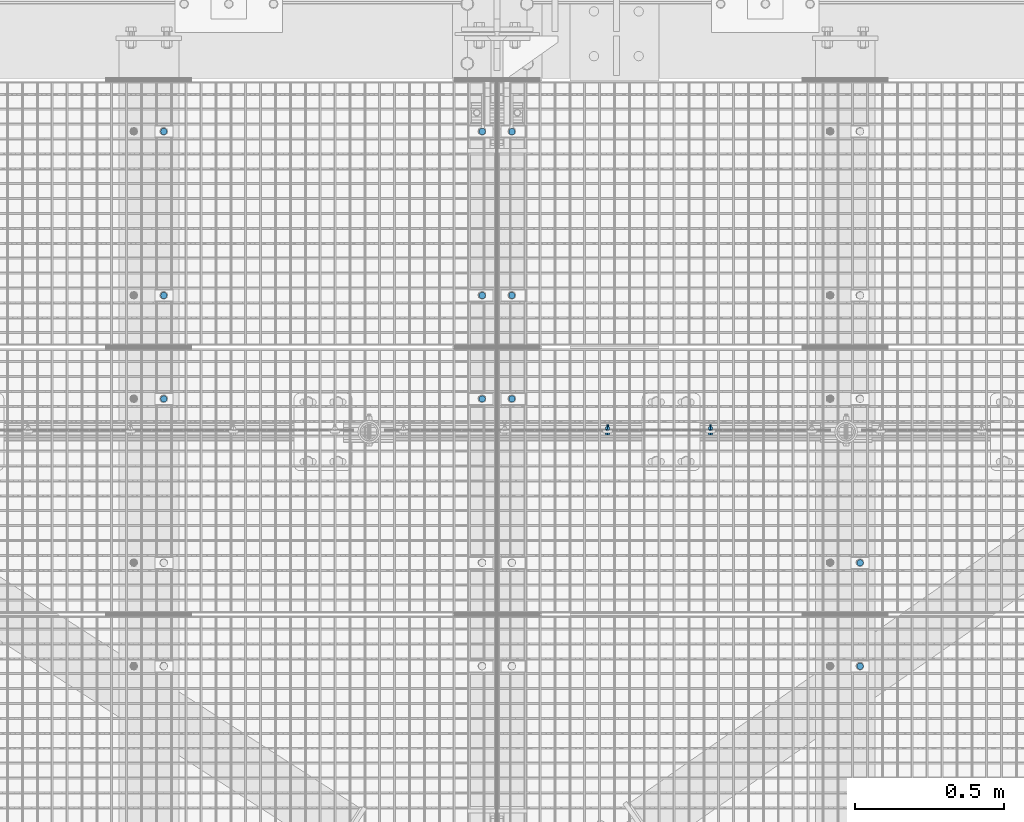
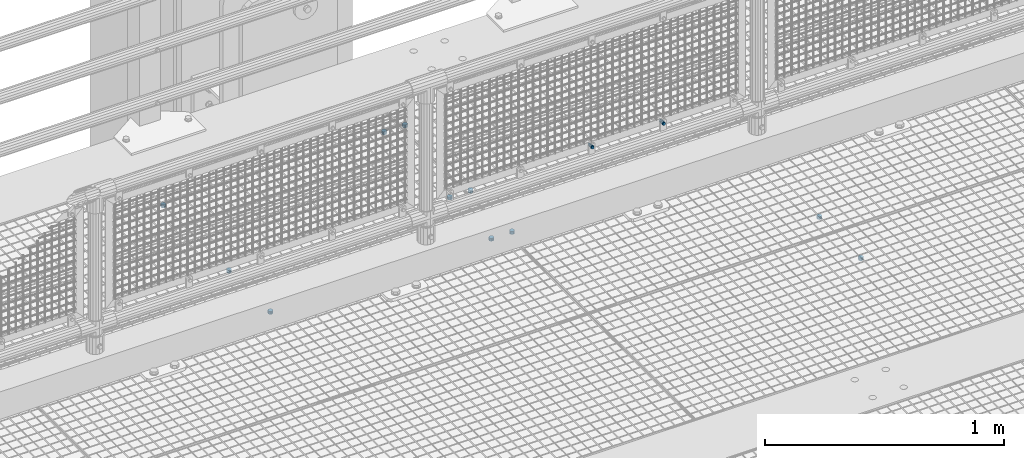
# One storey, part 97 of 1530: 13 mechanical fasteners.
"""IFC2X3 building model written with IfcOpenShell, lengths in millimetres."""

from ifc_helpers import new_model, si_unit, frame, origin_with_axes, place, context, subcontext, project, spatial, faceted_brep, source, transform, mapped, material, type_object, element, save


model = new_model("IFC2X3")

# Units and contexts
model_context = context("Model", 3, precision=1e-05, world=origin_with_axes())
body_context = subcontext(model_context, "Body", "Model", "MODEL_VIEW")
ifc_project = project(units=[si_unit("LENGTHUNIT", "METRE", prefix="MILLI"), si_unit("AREAUNIT", "SQUARE_METRE"), si_unit("VOLUMEUNIT", "CUBIC_METRE"), si_unit("MASSUNIT", "GRAM", prefix="KILO"), si_unit("TIMEUNIT", "SECOND"), si_unit("PLANEANGLEUNIT", "RADIAN"), si_unit("SOLIDANGLEUNIT", "STERADIAN"), si_unit("THERMODYNAMICTEMPERATUREUNIT", "DEGREE_CELSIUS"), si_unit("LUMINOUSINTENSITYUNIT", "LUMEN")], contexts=[model_context])

# Site, building, storey
site_placement = place(None, origin_with_axes())
site = spatial("IfcSite", under=ifc_project, at=site_placement, Name="Brattvåg", CompositionType="ELEMENT")
building_placement = place(site_placement, origin_with_axes())
building = spatial("IfcBuilding", under=site, at=building_placement, Name="Undefined", CompositionType="ELEMENT")
storey_placement = place(building_placement, origin_with_axes())
storey = spatial("IfcBuildingStorey", under=building, at=storey_placement, Name="Undefined", CompositionType="ELEMENT", Elevation=0.0)

# Mechanical fasteners
ifc_material = material(Name="8")
mechanical_fastener_type = type_object("IfcMechanicalFastenerType", Name="Bolt assembly")
shared_shape_1 = source(origin_with_axes(), body_context, "Body", "Brep", [
    faceted_brep([(11.0, -4.99999999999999, 0.0), (9.52627944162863, -4.99999999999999, 5.50000000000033), (5.49999999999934, -4.99999999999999, 9.5262794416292), (-1.13996957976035e-12, -4.99999999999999, 11.0), (-5.50000000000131, -4.99999999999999, 9.52627944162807), (-9.52627944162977, -4.99999999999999, 5.49999999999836), (-11.0, -4.99999999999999, -2.27993915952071e-12), (-9.5262794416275, -4.99999999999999, -5.5000000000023), (-5.49999999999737, -4.99999999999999, -9.52627944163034), (3.40769628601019e-12, -4.99999999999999, -11.0), (5.50000000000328, -4.99999999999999, -9.52627944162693), (9.52627944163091, -4.99999999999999, -5.49999999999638), (9.52627944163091, 10.1, -5.49999999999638), (5.50000000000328, 10.1, -9.52627944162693), (3.40769628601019e-12, 10.1, -11.0), (-5.49999999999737, 10.1, -9.52627944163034), (-9.5262794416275, 10.1, -5.5000000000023), (-11.0, 10.1, -2.27993915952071e-12), (-9.52627944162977, 10.1, 5.49999999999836), (-5.50000000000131, 10.1, 9.52627944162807), (-1.13996957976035e-12, 10.1, 11.0), (5.49999999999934, 10.1, 9.5262794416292), (9.52627944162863, 10.1, 5.50000000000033), (11.0, 10.1, 0.0)], [[[0, 1, 2, 3, 4, 5, 6, 7, 8, 9, 10, 11]], [[12, 13, 14, 15, 16, 17, 18, 19, 20, 21, 22, 23]], [[0, 23, 22, 1]], [[1, 22, 21, 2]], [[2, 21, 20, 3]], [[3, 20, 19, 4]], [[4, 19, 18, 5]], [[5, 18, 17, 6]], [[6, 17, 16, 7]], [[7, 16, 15, 8]], [[8, 15, 14, 9]], [[9, 14, 13, 10]], [[10, 13, 12, 11]], [[11, 12, 23, 0]]]),
])
for number, where, z_axis, x_axis, name in (
    (1, (12300.0047793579, 8121.98931152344, -35.0), (0.0, 1.0, 0.0), (1.0, 0.0, 0.0), "Bolt assembly"),
    (2, (12300.0047793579, 8671.99411010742, -35.0), (0.0, 1.0, 0.0), (1.0, 0.0, 0.0), "Bolt assembly"),
    (3, (12300.0047793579, 7774.99411010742, -35.0), (0.0, 1.0, 0.0), (1.0, 0.0, 0.0), "Bolt assembly"),
    (4, (13468.0119254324, 7224.99, -35.0), (0.0, -1.0, 0.0), (-1.0, 1.99999855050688e-09, 0.0), "Bolt assembly"),
    (5, (13468.0145606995, 6877.99565124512, -35.0), (0.0, -1.0, 0.0), (-1.0, 1.99999855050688e-09, 0.0), "Bolt assembly"),
    (6, (12200.0148773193, 8671.99411010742, -35.0), (0.0, -1.0, 0.0), (-1.0, 1.99999855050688e-09, 0.0), "Bolt assembly"),
    (7, (12200.0148773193, 8121.9904864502, -35.0), (0.0, -1.0, 0.0), (-1.0, 1.99999855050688e-09, 0.0), "Bolt assembly"),
    (8, (11132.0145606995, 8671.99565124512, -35.0), (0.0, -1.0, 0.0), (-1.0, 1.99999855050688e-09, 0.0), "Bolt assembly"),
    (9, (11132.0119254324, 8121.99, -35.0), (0.0, -1.0, 0.0), (-1.0, 1.99999855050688e-09, 0.0), "Bolt assembly"),
    (10, (12200.0148773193, 7774.99411010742, -35.0), (0.0, -1.0, 0.0), (-1.0, 1.99999855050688e-09, 0.0), "Bolt assembly"),
    (11, (11132.0145606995, 7774.99565124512, -35.0), (0.0, -1.0, 0.0), (-1.0, 1.99999855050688e-09, 0.0), "Bolt assembly"),
):
    element("IfcMechanicalFastener", number, at=place(storey_placement, frame(where, z_axis=z_axis, x_axis=x_axis)), inside=storey, type_object=mechanical_fastener_type, material=ifc_material, Name=name, NominalDiameter=20.0, NominalLength=15.0, context=body_context, shape_type="MappedRepresentation", body=[
        mapped(shared_shape_1, transform((0.0, 0.0, 0.0))),
    ])
shared_shape_2 = source(origin_with_axes(), body_context, "Body", "Brep", [
    faceted_brep([(7.50555349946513, -6.899000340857, 0.0), (3.75277674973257, -6.899000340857, 6.5), (-3.75277674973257, -6.899000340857, 6.5), (-7.50555349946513, -6.899000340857, 9.19165206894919e-16), (-3.75277674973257, -6.899000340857, -6.5), (3.75277674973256, -6.899000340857, -6.5), (3.75277674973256, -1.59900015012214, -6.5), (-3.75277674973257, -1.59900015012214, -6.5), (-7.50555349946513, -1.59900015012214, 9.19165206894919e-16), (-3.75277674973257, -1.59900015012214, 6.5), (3.75277674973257, -1.59900015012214, 6.5), (7.50555349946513, -1.59900015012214, 0.0), (4.0, -1.59900015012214, 0.0), (3.46410161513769, -1.59900015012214, 2.00000000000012), (1.99999999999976, -1.59900015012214, 3.46410161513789), (-4.14534392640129e-13, -1.59900015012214, 4.0), (-2.00000000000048, -1.59900015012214, 3.46410161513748), (-3.4641016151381, -1.59900015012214, 1.9999999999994), (-4.0, -1.59900015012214, -8.29068785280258e-13), (-3.46410161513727, -1.59900015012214, -2.00000000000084), (-1.99999999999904, -1.59900015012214, -3.46410161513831), (1.23916228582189e-12, -1.59900015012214, -4.0), (2.00000000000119, -1.59900015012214, -3.46410161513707), (3.46410161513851, -1.59900015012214, -1.99999999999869), (3.46410161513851, 28.4009998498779, -1.99999999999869), (2.00000000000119, 28.4009998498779, -3.46410161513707), (1.23916228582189e-12, 28.4009998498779, -4.0), (-1.99999999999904, 28.4009998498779, -3.46410161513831), (-3.46410161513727, 28.4009998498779, -2.00000000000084), (-4.0, 28.4009998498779, -8.29068785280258e-13), (-3.4641016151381, 28.4009998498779, 1.9999999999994), (-2.00000000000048, 28.4009998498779, 3.46410161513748), (-4.14534392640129e-13, 28.4009998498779, 4.0), (1.99999999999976, 28.4009998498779, 3.46410161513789), (3.46410161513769, 28.4009998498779, 2.00000000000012), (4.0, 28.4009998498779, 0.0), (8.5, -1.59900015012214, 0.0), (7.36121593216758, -1.59900015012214, 4.25000000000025), (4.24999999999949, -1.59900015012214, 7.36121593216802), (-8.80885584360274e-13, -1.59900015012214, 8.5), (-4.25000000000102, -1.59900015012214, 7.36121593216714), (-7.36121593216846, -1.59900015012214, 4.24999999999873), (-8.5, -1.59900015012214, -1.76177116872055e-12), (-7.3612159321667, -1.59900015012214, -4.25000000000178), (-4.24999999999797, -1.59900015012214, -7.3612159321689), (2.63321985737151e-12, -1.59900015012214, -8.5), (4.25000000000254, -1.59900015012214, -7.36121593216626), (7.36121593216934, -1.59900015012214, -4.24999999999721), (7.36121593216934, 0.000999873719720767, -4.24999999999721), (4.25000000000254, 0.000999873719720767, -7.36121593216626), (2.63321985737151e-12, 0.000999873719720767, -8.5), (-4.24999999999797, 0.000999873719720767, -7.3612159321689), (-7.3612159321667, 0.000999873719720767, -4.25000000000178), (-8.5, 0.000999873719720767, -1.76177116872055e-12), (-7.36121593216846, 0.000999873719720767, 4.24999999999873), (-4.25000000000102, 0.000999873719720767, 7.36121593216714), (-8.80885584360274e-13, 0.000999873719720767, 8.5), (4.24999999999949, 0.000999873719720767, 7.36121593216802), (7.36121593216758, 0.000999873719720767, 4.25000000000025), (8.5, 0.000999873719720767, 0.0), (8.5, 11.5035404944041, 0.0), (7.36121593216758, 11.5035404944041, 4.25000000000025), (4.24999999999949, 11.5035404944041, 7.36121593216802), (-8.80885584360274e-13, 11.5035404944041, 8.5), (-4.25000000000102, 11.5035404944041, 7.36121593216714), (-7.36121593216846, 11.5035404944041, 4.24999999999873), (-8.5, 11.5035404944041, -1.76177116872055e-12), (-7.3612159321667, 11.5035404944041, -4.25000000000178), (-4.24999999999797, 11.5035404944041, -7.3612159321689), (2.63321985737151e-12, 11.5035404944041, -8.5), (4.25000000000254, 11.5035404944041, -7.36121593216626), (7.36121593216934, 11.5035404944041, -4.24999999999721), (7.36121593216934, 13.1035405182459, -4.24999999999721), (4.25000000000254, 13.1035405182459, -7.36121593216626), (2.63321985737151e-12, 13.1035405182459, -8.5), (-4.24999999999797, 13.1035405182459, -7.3612159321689), (-7.3612159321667, 13.1035405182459, -4.25000000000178), (-8.5, 13.1035405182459, -1.76177116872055e-12), (-7.36121593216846, 13.1035405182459, 4.24999999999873), (-4.25000000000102, 13.1035405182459, 7.36121593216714), (-8.80885584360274e-13, 13.1035405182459, 8.5), (4.24999999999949, 13.1035405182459, 7.36121593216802), (7.36121593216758, 13.1035405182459, 4.25000000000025), (8.5, 13.1035405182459, 0.0), (7.50555349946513, 13.1035405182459, 0.0), (3.75277674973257, 13.1035405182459, 6.5), (-3.75277674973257, 13.1035405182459, 6.5), (-7.50555349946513, 13.1035405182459, 9.19165206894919e-16), (-3.75277674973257, 13.1035405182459, -6.5), (3.75277674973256, 13.1035405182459, -6.5), (3.75277674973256, 19.9035407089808, -6.5), (-3.75277674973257, 19.9035407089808, -6.5), (-7.50555349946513, 19.9035407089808, 9.19165206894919e-16), (-3.75277674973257, 19.9035407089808, 6.5), (3.75277674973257, 19.9035407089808, 6.5), (7.50555349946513, 19.9035407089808, 0.0)], [[[0, 1, 2, 3, 4, 5]], [[6, 7, 8, 9, 10, 11]], [[0, 11, 10, 1]], [[1, 10, 9, 2]], [[2, 9, 8, 3]], [[3, 8, 7, 4]], [[4, 7, 6, 5]], [[5, 6, 11, 0]], [[12, 13, 14, 15, 16, 17, 18, 19, 20, 21, 22, 23]], [[24, 25, 26, 27, 28, 29, 30, 31, 32, 33, 34, 35]], [[12, 35, 34, 13]], [[13, 34, 33, 14]], [[14, 33, 32, 15]], [[15, 32, 31, 16]], [[16, 31, 30, 17]], [[17, 30, 29, 18]], [[18, 29, 28, 19]], [[19, 28, 27, 20]], [[20, 27, 26, 21]], [[21, 26, 25, 22]], [[22, 25, 24, 23]], [[23, 24, 35, 12]], [[36, 37, 38, 39, 40, 41, 42, 43, 44, 45, 46, 47]], [[48, 49, 50, 51, 52, 53, 54, 55, 56, 57, 58, 59]], [[36, 59, 58, 37]], [[37, 58, 57, 38]], [[38, 57, 56, 39]], [[39, 56, 55, 40]], [[40, 55, 54, 41]], [[41, 54, 53, 42]], [[42, 53, 52, 43]], [[43, 52, 51, 44]], [[44, 51, 50, 45]], [[45, 50, 49, 46]], [[46, 49, 48, 47]], [[47, 48, 59, 36]], [[60, 61, 62, 63, 64, 65, 66, 67, 68, 69, 70, 71]], [[72, 73, 74, 75, 76, 77, 78, 79, 80, 81, 82, 83]], [[60, 83, 82, 61]], [[61, 82, 81, 62]], [[62, 81, 80, 63]], [[63, 80, 79, 64]], [[64, 79, 78, 65]], [[65, 78, 77, 66]], [[66, 77, 76, 67]], [[67, 76, 75, 68]], [[68, 75, 74, 69]], [[69, 74, 73, 70]], [[70, 73, 72, 71]], [[71, 72, 83, 60]], [[84, 85, 86, 87, 88, 89]], [[90, 91, 92, 93, 94, 95]], [[84, 95, 94, 85]], [[85, 94, 93, 86]], [[86, 93, 92, 87]], [[87, 92, 91, 88]], [[88, 91, 90, 89]], [[89, 90, 95, 84]]]),
    faceted_brep([(5.0, 0.100999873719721, 0.0), (4.33012701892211, 0.100999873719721, 2.50000000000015), (2.4999999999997, 0.100999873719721, 4.33012701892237), (-5.18167990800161e-13, 0.100999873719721, 5.0), (-2.5000000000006, 0.100999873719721, 4.33012701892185), (-4.33012701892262, 0.100999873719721, 2.49999999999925), (-5.0, 0.100999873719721, -1.03633598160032e-12), (-4.33012701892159, 0.100999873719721, -2.50000000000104), (-2.49999999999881, 0.100999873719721, -4.33012701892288), (1.54895285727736e-12, 0.100999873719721, -5.0), (2.50000000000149, 0.100999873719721, -4.33012701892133), (4.33012701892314, 0.100999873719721, -2.49999999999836), (4.33012701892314, 8.10099988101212, -2.49999999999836), (2.50000000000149, 8.10099988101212, -4.33012701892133), (1.54895285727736e-12, 8.10099988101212, -5.0), (-2.49999999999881, 8.10099988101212, -4.33012701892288), (-4.33012701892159, 8.10099988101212, -2.50000000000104), (-5.0, 8.10099988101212, -1.03633598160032e-12), (-4.33012701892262, 8.10099988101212, 2.49999999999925), (-2.5000000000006, 8.10099988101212, 4.33012701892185), (-5.18167990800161e-13, 8.10099988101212, 5.0), (2.4999999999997, 8.10099988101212, 4.33012701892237), (4.33012701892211, 8.10099988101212, 2.50000000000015), (5.0, 8.10099988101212, 0.0), (5.0, 8.40354049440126, 0.0), (4.33012701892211, 8.40354049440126, 2.50000000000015), (2.4999999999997, 8.40354049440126, 4.33012701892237), (-5.18167990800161e-13, 8.40354049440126, 5.0), (-2.5000000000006, 8.40354049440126, 4.33012701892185), (-4.33012701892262, 8.40354049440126, 2.49999999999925), (-5.0, 8.40354049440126, -1.03633598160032e-12), (-4.33012701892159, 8.40354049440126, -2.50000000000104), (-2.49999999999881, 8.40354049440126, -4.33012701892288), (1.54895285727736e-12, 8.40354049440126, -5.0), (2.50000000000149, 8.40354049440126, -4.33012701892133), (4.33012701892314, 8.40354049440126, -2.49999999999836), (4.33012701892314, 11.5035404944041, -2.49999999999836), (2.50000000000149, 11.5035404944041, -4.33012701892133), (1.54895285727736e-12, 11.5035404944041, -5.0), (-2.49999999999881, 11.5035404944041, -4.33012701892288), (-4.33012701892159, 11.5035404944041, -2.50000000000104), (-5.0, 11.5035404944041, -1.03633598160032e-12), (-4.33012701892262, 11.5035404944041, 2.49999999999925), (-2.5000000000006, 11.5035404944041, 4.33012701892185), (-5.18167990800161e-13, 11.5035404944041, 5.0), (2.4999999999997, 11.5035404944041, 4.33012701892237), (4.33012701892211, 11.5035404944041, 2.50000000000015), (5.0, 11.5035404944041, 0.0)], [[[0, 1, 2, 3, 4, 5, 6, 7, 8, 9, 10, 11]], [[12, 13, 14, 15, 16, 17, 18, 19, 20, 21, 22, 23]], [[0, 23, 22, 1]], [[1, 22, 21, 2]], [[2, 21, 20, 3]], [[3, 20, 19, 4]], [[4, 19, 18, 5]], [[5, 18, 17, 6]], [[6, 17, 16, 7]], [[7, 16, 15, 8]], [[8, 15, 14, 9]], [[9, 14, 13, 10]], [[10, 13, 12, 11]], [[11, 12, 23, 0]], [[24, 25, 26, 27, 28, 29, 30, 31, 32, 33, 34, 35]], [[36, 37, 38, 39, 40, 41, 42, 43, 44, 45, 46, 47]], [[24, 47, 46, 25]], [[25, 46, 45, 26]], [[26, 45, 44, 27]], [[27, 44, 43, 28]], [[28, 43, 42, 29]], [[29, 42, 41, 30]], [[30, 41, 40, 31]], [[31, 40, 39, 32]], [[32, 39, 38, 33]], [[33, 38, 37, 34]], [[34, 37, 36, 35]], [[35, 36, 47, 24]]]),
])
mechanical_fastener_1_placement = place(storey_placement, frame((12620.8500747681, 7660.49843978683, 352.299672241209), z_axis=(-1.0, 1.99999855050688e-09, 0.0), x_axis=(0.0, 0.0, 1.0)))
element("IfcMechanicalFastener", 12, at=mechanical_fastener_1_placement, inside=storey, type_object=mechanical_fastener_type, material=ifc_material, Name="Bolt assembly", NominalDiameter=8.0, NominalLength=30.0, context=body_context, shape_type="MappedRepresentation", body=[
    mapped(shared_shape_2, transform((0.0, 0.0, 0.0))),
])
shared_shape_3 = source(origin_with_axes(), body_context, "Body", "Brep", [
    faceted_brep([(7.50555349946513, -6.899000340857, 0.0), (3.75277674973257, -6.899000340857, 6.5), (-3.75277674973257, -6.899000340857, 6.5), (-7.50555349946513, -6.899000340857, 9.19165206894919e-16), (-3.75277674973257, -6.899000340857, -6.5), (3.75277674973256, -6.899000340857, -6.5), (3.75277674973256, -1.59900015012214, -6.5), (-3.75277674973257, -1.59900015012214, -6.5), (-7.50555349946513, -1.59900015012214, 9.19165206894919e-16), (-3.75277674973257, -1.59900015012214, 6.5), (3.75277674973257, -1.59900015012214, 6.5), (7.50555349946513, -1.59900015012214, 0.0), (4.0, -1.59900015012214, 0.0), (3.46410161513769, -1.59900015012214, 2.00000000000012), (1.99999999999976, -1.59900015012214, 3.46410161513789), (-4.14534392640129e-13, -1.59900015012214, 4.0), (-2.00000000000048, -1.59900015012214, 3.46410161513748), (-3.4641016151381, -1.59900015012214, 1.9999999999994), (-4.0, -1.59900015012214, -8.29068785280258e-13), (-3.46410161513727, -1.59900015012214, -2.00000000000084), (-1.99999999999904, -1.59900015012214, -3.46410161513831), (1.23916228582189e-12, -1.59900015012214, -4.0), (2.00000000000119, -1.59900015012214, -3.46410161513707), (3.46410161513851, -1.59900015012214, -1.99999999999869), (3.46410161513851, 28.4009998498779, -1.99999999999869), (2.00000000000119, 28.4009998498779, -3.46410161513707), (1.23916228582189e-12, 28.4009998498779, -4.0), (-1.99999999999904, 28.4009998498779, -3.46410161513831), (-3.46410161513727, 28.4009998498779, -2.00000000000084), (-4.0, 28.4009998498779, -8.29068785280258e-13), (-3.4641016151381, 28.4009998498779, 1.9999999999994), (-2.00000000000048, 28.4009998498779, 3.46410161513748), (-4.14534392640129e-13, 28.4009998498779, 4.0), (1.99999999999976, 28.4009998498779, 3.46410161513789), (3.46410161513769, 28.4009998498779, 2.00000000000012), (4.0, 28.4009998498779, 0.0), (8.5, -1.59900015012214, 0.0), (7.36121593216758, -1.59900015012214, 4.25000000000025), (4.24999999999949, -1.59900015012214, 7.36121593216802), (-8.80885584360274e-13, -1.59900015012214, 8.5), (-4.25000000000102, -1.59900015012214, 7.36121593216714), (-7.36121593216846, -1.59900015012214, 4.24999999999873), (-8.5, -1.59900015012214, -1.76177116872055e-12), (-7.3612159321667, -1.59900015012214, -4.25000000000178), (-4.24999999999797, -1.59900015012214, -7.3612159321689), (2.63321985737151e-12, -1.59900015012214, -8.5), (4.25000000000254, -1.59900015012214, -7.36121593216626), (7.36121593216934, -1.59900015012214, -4.24999999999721), (7.36121593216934, 0.000999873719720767, -4.24999999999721), (4.25000000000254, 0.000999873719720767, -7.36121593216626), (2.63321985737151e-12, 0.000999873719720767, -8.5), (-4.24999999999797, 0.000999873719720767, -7.3612159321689), (-7.3612159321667, 0.000999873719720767, -4.25000000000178), (-8.5, 0.000999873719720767, -1.76177116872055e-12), (-7.36121593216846, 0.000999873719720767, 4.24999999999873), (-4.25000000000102, 0.000999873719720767, 7.36121593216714), (-8.80885584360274e-13, 0.000999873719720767, 8.5), (4.24999999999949, 0.000999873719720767, 7.36121593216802), (7.36121593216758, 0.000999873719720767, 4.25000000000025), (8.5, 0.000999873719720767, 0.0), (8.5, 11.5030995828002, 0.0), (7.36121593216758, 11.5030995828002, 4.25000000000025), (4.24999999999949, 11.5030995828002, 7.36121593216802), (-8.80885584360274e-13, 11.5030995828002, 8.5), (-4.25000000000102, 11.5030995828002, 7.36121593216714), (-7.36121593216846, 11.5030995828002, 4.24999999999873), (-8.5, 11.5030995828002, -1.76177116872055e-12), (-7.3612159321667, 11.5030995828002, -4.25000000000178), (-4.24999999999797, 11.5030995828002, -7.3612159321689), (2.63321985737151e-12, 11.5030995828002, -8.5), (4.25000000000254, 11.5030995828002, -7.36121593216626), (7.36121593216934, 11.5030995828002, -4.24999999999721), (7.36121593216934, 13.1030996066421, -4.24999999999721), (4.25000000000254, 13.1030996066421, -7.36121593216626), (2.63321985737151e-12, 13.1030996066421, -8.5), (-4.24999999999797, 13.1030996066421, -7.3612159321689), (-7.3612159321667, 13.1030996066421, -4.25000000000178), (-8.5, 13.1030996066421, -1.76177116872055e-12), (-7.36121593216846, 13.1030996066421, 4.24999999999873), (-4.25000000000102, 13.1030996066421, 7.36121593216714), (-8.80885584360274e-13, 13.1030996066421, 8.5), (4.24999999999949, 13.1030996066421, 7.36121593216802), (7.36121593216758, 13.1030996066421, 4.25000000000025), (8.5, 13.1030996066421, 0.0), (7.50555349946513, 13.1030996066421, 0.0), (3.75277674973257, 13.1030996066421, 6.5), (-3.75277674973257, 13.1030996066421, 6.5), (-7.50555349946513, 13.1030996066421, 9.19165206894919e-16), (-3.75277674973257, 13.1030996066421, -6.5), (3.75277674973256, 13.1030996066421, -6.5), (3.75277674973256, 19.9030997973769, -6.5), (-3.75277674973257, 19.9030997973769, -6.5), (-7.50555349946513, 19.9030997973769, 9.19165206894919e-16), (-3.75277674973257, 19.9030997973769, 6.5), (3.75277674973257, 19.9030997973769, 6.5), (7.50555349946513, 19.9030997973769, 0.0)], [[[0, 1, 2, 3, 4, 5]], [[6, 7, 8, 9, 10, 11]], [[0, 11, 10, 1]], [[1, 10, 9, 2]], [[2, 9, 8, 3]], [[3, 8, 7, 4]], [[4, 7, 6, 5]], [[5, 6, 11, 0]], [[12, 13, 14, 15, 16, 17, 18, 19, 20, 21, 22, 23]], [[24, 25, 26, 27, 28, 29, 30, 31, 32, 33, 34, 35]], [[12, 35, 34, 13]], [[13, 34, 33, 14]], [[14, 33, 32, 15]], [[15, 32, 31, 16]], [[16, 31, 30, 17]], [[17, 30, 29, 18]], [[18, 29, 28, 19]], [[19, 28, 27, 20]], [[20, 27, 26, 21]], [[21, 26, 25, 22]], [[22, 25, 24, 23]], [[23, 24, 35, 12]], [[36, 37, 38, 39, 40, 41, 42, 43, 44, 45, 46, 47]], [[48, 49, 50, 51, 52, 53, 54, 55, 56, 57, 58, 59]], [[36, 59, 58, 37]], [[37, 58, 57, 38]], [[38, 57, 56, 39]], [[39, 56, 55, 40]], [[40, 55, 54, 41]], [[41, 54, 53, 42]], [[42, 53, 52, 43]], [[43, 52, 51, 44]], [[44, 51, 50, 45]], [[45, 50, 49, 46]], [[46, 49, 48, 47]], [[47, 48, 59, 36]], [[60, 61, 62, 63, 64, 65, 66, 67, 68, 69, 70, 71]], [[72, 73, 74, 75, 76, 77, 78, 79, 80, 81, 82, 83]], [[60, 83, 82, 61]], [[61, 82, 81, 62]], [[62, 81, 80, 63]], [[63, 80, 79, 64]], [[64, 79, 78, 65]], [[65, 78, 77, 66]], [[66, 77, 76, 67]], [[67, 76, 75, 68]], [[68, 75, 74, 69]], [[69, 74, 73, 70]], [[70, 73, 72, 71]], [[71, 72, 83, 60]], [[84, 85, 86, 87, 88, 89]], [[90, 91, 92, 93, 94, 95]], [[84, 95, 94, 85]], [[85, 94, 93, 86]], [[86, 93, 92, 87]], [[87, 92, 91, 88]], [[88, 91, 90, 89]], [[89, 90, 95, 84]]]),
    faceted_brep([(5.0, 0.100999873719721, 0.0), (4.33012701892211, 0.100999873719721, 2.50000000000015), (2.4999999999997, 0.100999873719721, 4.33012701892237), (-5.18167990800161e-13, 0.100999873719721, 5.0), (-2.5000000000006, 0.100999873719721, 4.33012701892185), (-4.33012701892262, 0.100999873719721, 2.49999999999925), (-5.0, 0.100999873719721, -1.03633598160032e-12), (-4.33012701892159, 0.100999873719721, -2.50000000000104), (-2.49999999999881, 0.100999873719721, -4.33012701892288), (1.54895285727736e-12, 0.100999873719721, -5.0), (2.50000000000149, 0.100999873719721, -4.33012701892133), (4.33012701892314, 0.100999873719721, -2.49999999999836), (4.33012701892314, 8.10099988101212, -2.49999999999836), (2.50000000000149, 8.10099988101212, -4.33012701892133), (1.54895285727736e-12, 8.10099988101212, -5.0), (-2.49999999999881, 8.10099988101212, -4.33012701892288), (-4.33012701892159, 8.10099988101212, -2.50000000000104), (-5.0, 8.10099988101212, -1.03633598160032e-12), (-4.33012701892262, 8.10099988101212, 2.49999999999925), (-2.5000000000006, 8.10099988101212, 4.33012701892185), (-5.18167990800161e-13, 8.10099988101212, 5.0), (2.4999999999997, 8.10099988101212, 4.33012701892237), (4.33012701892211, 8.10099988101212, 2.50000000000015), (5.0, 8.10099988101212, 0.0), (5.0, 8.40309958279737, 0.0), (4.33012701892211, 8.40309958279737, 2.50000000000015), (2.4999999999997, 8.40309958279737, 4.33012701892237), (-5.18167990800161e-13, 8.40309958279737, 5.0), (-2.5000000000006, 8.40309958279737, 4.33012701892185), (-4.33012701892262, 8.40309958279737, 2.49999999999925), (-5.0, 8.40309958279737, -1.03633598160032e-12), (-4.33012701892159, 8.40309958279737, -2.50000000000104), (-2.49999999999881, 8.40309958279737, -4.33012701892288), (1.54895285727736e-12, 8.40309958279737, -5.0), (2.50000000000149, 8.40309958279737, -4.33012701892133), (4.33012701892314, 8.40309958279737, -2.49999999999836), (4.33012701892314, 11.5030995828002, -2.49999999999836), (2.50000000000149, 11.5030995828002, -4.33012701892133), (1.54895285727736e-12, 11.5030995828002, -5.0), (-2.49999999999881, 11.5030995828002, -4.33012701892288), (-4.33012701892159, 11.5030995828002, -2.50000000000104), (-5.0, 11.5030995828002, -1.03633598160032e-12), (-4.33012701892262, 11.5030995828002, 2.49999999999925), (-2.5000000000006, 11.5030995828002, 4.33012701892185), (-5.18167990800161e-13, 11.5030995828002, 5.0), (2.4999999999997, 11.5030995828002, 4.33012701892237), (4.33012701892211, 11.5030995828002, 2.50000000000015), (5.0, 11.5030995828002, 0.0)], [[[0, 1, 2, 3, 4, 5, 6, 7, 8, 9, 10, 11]], [[12, 13, 14, 15, 16, 17, 18, 19, 20, 21, 22, 23]], [[0, 23, 22, 1]], [[1, 22, 21, 2]], [[2, 21, 20, 3]], [[3, 20, 19, 4]], [[4, 19, 18, 5]], [[5, 18, 17, 6]], [[6, 17, 16, 7]], [[7, 16, 15, 8]], [[8, 15, 14, 9]], [[9, 14, 13, 10]], [[10, 13, 12, 11]], [[11, 12, 23, 0]], [[24, 25, 26, 27, 28, 29, 30, 31, 32, 33, 34, 35]], [[36, 37, 38, 39, 40, 41, 42, 43, 44, 45, 46, 47]], [[24, 47, 46, 25]], [[25, 46, 45, 26]], [[26, 45, 44, 27]], [[27, 44, 43, 28]], [[28, 43, 42, 29]], [[29, 42, 41, 30]], [[30, 41, 40, 31]], [[31, 40, 39, 32]], [[32, 39, 38, 33]], [[33, 38, 37, 34]], [[34, 37, 36, 35]], [[35, 36, 47, 24]]]),
])
mechanical_fastener_2_placement = place(storey_placement, frame((12965.8512954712, 7660.49843978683, 352.299672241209), z_axis=(-1.0, 1.99999855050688e-09, 0.0), x_axis=(0.0, 0.0, 1.0)))
element("IfcMechanicalFastener", 13, at=mechanical_fastener_2_placement, inside=storey, type_object=mechanical_fastener_type, material=ifc_material, Name="Bolt assembly", NominalDiameter=8.0, NominalLength=30.0, context=body_context, shape_type="MappedRepresentation", body=[
    mapped(shared_shape_3, transform((0.0, 0.0, 0.0))),
])

save(model, "model.ifc")
